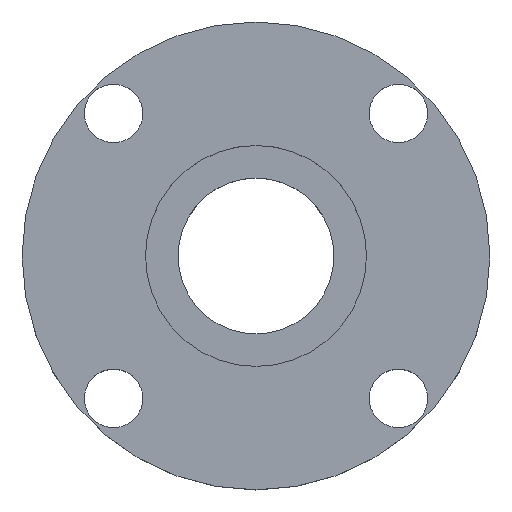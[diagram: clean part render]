
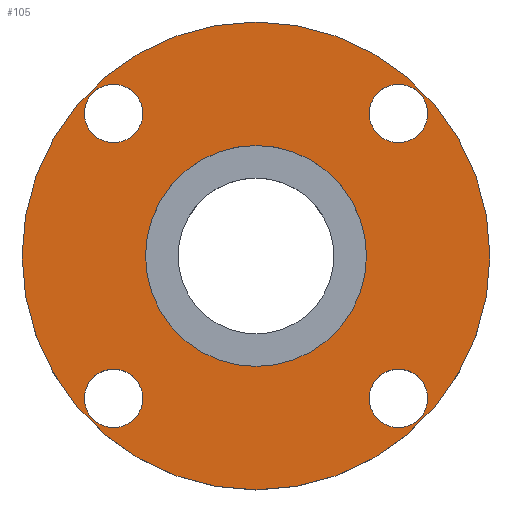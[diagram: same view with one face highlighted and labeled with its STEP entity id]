
A CAD part, top view. The second image highlights one B-rep face of the part: STEP entity #105.
In plain terms, the highlighted planar face has unit normal (0, 0, 1).
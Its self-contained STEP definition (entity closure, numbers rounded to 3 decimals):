
#21 = EDGE_CURVE('',#22,#22,#24,.T.);
#22 = VERTEX_POINT('',#23);
#23 = CARTESIAN_POINT('',(36.,0.,10.));
#24 = SURFACE_CURVE('',#25,(#30,#42),.PCURVE_S1.);
#25 = CIRCLE('',#26,36.);
#26 = AXIS2_PLACEMENT_3D('',#27,#28,#29);
#27 = CARTESIAN_POINT('',(0.,0.,10.));
#28 = DIRECTION('',(0.,0.,1.));
#29 = DIRECTION('',(1.,0.,-0.));
#30 = PCURVE('',#31,#36);
#31 = CYLINDRICAL_SURFACE('',#32,36.);
#32 = AXIS2_PLACEMENT_3D('',#33,#34,#35);
#33 = CARTESIAN_POINT('',(0.,0.,0.));
#34 = DIRECTION('',(0.,0.,1.));
#35 = DIRECTION('',(1.,0.,-0.));
#36 = DEFINITIONAL_REPRESENTATION('',(#37),#41);
#37 = LINE('',#38,#39);
#38 = CARTESIAN_POINT('',(0.,10.));
#39 = VECTOR('',#40,1.);
#40 = DIRECTION('',(1.,0.));
#41 = ( GEOMETRIC_REPRESENTATION_CONTEXT(2) 
PARAMETRIC_REPRESENTATION_CONTEXT() REPRESENTATION_CONTEXT('2D SPACE',''
  ) );
#42 = PCURVE('',#43,#48);
#43 = PLANE('',#44);
#44 = AXIS2_PLACEMENT_3D('',#45,#46,#47);
#45 = CARTESIAN_POINT('',(0.,0.,10.));
#46 = DIRECTION('',(0.,0.,1.));
#47 = DIRECTION('',(1.,0.,-0.));
#48 = DEFINITIONAL_REPRESENTATION('',(#49),#53);
#49 = CIRCLE('',#50,36.);
#50 = AXIS2_PLACEMENT_2D('',#51,#52);
#51 = CARTESIAN_POINT('',(0.,0.));
#52 = DIRECTION('',(1.,0.));
#53 = ( GEOMETRIC_REPRESENTATION_CONTEXT(2) 
PARAMETRIC_REPRESENTATION_CONTEXT() REPRESENTATION_CONTEXT('2D SPACE',''
  ) );
#105 = ADVANCED_FACE('',(#106,#109,#140,#171,#202,#233),#43,.T.);
#106 = FACE_BOUND('',#107,.T.);
#107 = EDGE_LOOP('',(#108));
#108 = ORIENTED_EDGE('',*,*,#21,.T.);
#109 = FACE_BOUND('',#110,.T.);
#110 = EDGE_LOOP('',(#111));
#111 = ORIENTED_EDGE('',*,*,#112,.F.);
#112 = EDGE_CURVE('',#113,#113,#115,.T.);
#113 = VERTEX_POINT('',#114);
#114 = CARTESIAN_POINT('',(-17.42,-21.92,10.));
#115 = SURFACE_CURVE('',#116,(#121,#128),.PCURVE_S1.);
#116 = CIRCLE('',#117,4.5);
#117 = AXIS2_PLACEMENT_3D('',#118,#119,#120);
#118 = CARTESIAN_POINT('',(-21.92,-21.92,10.));
#119 = DIRECTION('',(0.,0.,1.));
#120 = DIRECTION('',(1.,0.,-0.));
#121 = PCURVE('',#43,#122);
#122 = DEFINITIONAL_REPRESENTATION('',(#123),#127);
#123 = CIRCLE('',#124,4.5);
#124 = AXIS2_PLACEMENT_2D('',#125,#126);
#125 = CARTESIAN_POINT('',(-21.92,-21.92));
#126 = DIRECTION('',(1.,0.));
#127 = ( GEOMETRIC_REPRESENTATION_CONTEXT(2) 
PARAMETRIC_REPRESENTATION_CONTEXT() REPRESENTATION_CONTEXT('2D SPACE',''
  ) );
#128 = PCURVE('',#129,#134);
#129 = CYLINDRICAL_SURFACE('',#130,4.5);
#130 = AXIS2_PLACEMENT_3D('',#131,#132,#133);
#131 = CARTESIAN_POINT('',(-21.92,-21.92,-15.));
#132 = DIRECTION('',(0.,0.,1.));
#133 = DIRECTION('',(1.,0.,-0.));
#134 = DEFINITIONAL_REPRESENTATION('',(#135),#139);
#135 = LINE('',#136,#137);
#136 = CARTESIAN_POINT('',(0.,25.));
#137 = VECTOR('',#138,1.);
#138 = DIRECTION('',(1.,0.));
#139 = ( GEOMETRIC_REPRESENTATION_CONTEXT(2) 
PARAMETRIC_REPRESENTATION_CONTEXT() REPRESENTATION_CONTEXT('2D SPACE',''
  ) );
#140 = FACE_BOUND('',#141,.T.);
#141 = EDGE_LOOP('',(#142));
#142 = ORIENTED_EDGE('',*,*,#143,.F.);
#143 = EDGE_CURVE('',#144,#144,#146,.T.);
#144 = VERTEX_POINT('',#145);
#145 = CARTESIAN_POINT('',(26.42,-21.92,10.));
#146 = SURFACE_CURVE('',#147,(#152,#159),.PCURVE_S1.);
#147 = CIRCLE('',#148,4.5);
#148 = AXIS2_PLACEMENT_3D('',#149,#150,#151);
#149 = CARTESIAN_POINT('',(21.92,-21.92,10.));
#150 = DIRECTION('',(0.,0.,1.));
#151 = DIRECTION('',(1.,0.,-0.));
#152 = PCURVE('',#43,#153);
#153 = DEFINITIONAL_REPRESENTATION('',(#154),#158);
#154 = CIRCLE('',#155,4.5);
#155 = AXIS2_PLACEMENT_2D('',#156,#157);
#156 = CARTESIAN_POINT('',(21.92,-21.92));
#157 = DIRECTION('',(1.,0.));
#158 = ( GEOMETRIC_REPRESENTATION_CONTEXT(2) 
PARAMETRIC_REPRESENTATION_CONTEXT() REPRESENTATION_CONTEXT('2D SPACE',''
  ) );
#159 = PCURVE('',#160,#165);
#160 = CYLINDRICAL_SURFACE('',#161,4.5);
#161 = AXIS2_PLACEMENT_3D('',#162,#163,#164);
#162 = CARTESIAN_POINT('',(21.92,-21.92,-15.));
#163 = DIRECTION('',(0.,0.,1.));
#164 = DIRECTION('',(1.,0.,-0.));
#165 = DEFINITIONAL_REPRESENTATION('',(#166),#170);
#166 = LINE('',#167,#168);
#167 = CARTESIAN_POINT('',(0.,25.));
#168 = VECTOR('',#169,1.);
#169 = DIRECTION('',(1.,0.));
#170 = ( GEOMETRIC_REPRESENTATION_CONTEXT(2) 
PARAMETRIC_REPRESENTATION_CONTEXT() REPRESENTATION_CONTEXT('2D SPACE',''
  ) );
#171 = FACE_BOUND('',#172,.T.);
#172 = EDGE_LOOP('',(#173));
#173 = ORIENTED_EDGE('',*,*,#174,.F.);
#174 = EDGE_CURVE('',#175,#175,#177,.T.);
#175 = VERTEX_POINT('',#176);
#176 = CARTESIAN_POINT('',(-17.42,21.92,10.));
#177 = SURFACE_CURVE('',#178,(#183,#190),.PCURVE_S1.);
#178 = CIRCLE('',#179,4.5);
#179 = AXIS2_PLACEMENT_3D('',#180,#181,#182);
#180 = CARTESIAN_POINT('',(-21.92,21.92,10.));
#181 = DIRECTION('',(0.,0.,1.));
#182 = DIRECTION('',(1.,0.,-0.));
#183 = PCURVE('',#43,#184);
#184 = DEFINITIONAL_REPRESENTATION('',(#185),#189);
#185 = CIRCLE('',#186,4.5);
#186 = AXIS2_PLACEMENT_2D('',#187,#188);
#187 = CARTESIAN_POINT('',(-21.92,21.92));
#188 = DIRECTION('',(1.,0.));
#189 = ( GEOMETRIC_REPRESENTATION_CONTEXT(2) 
PARAMETRIC_REPRESENTATION_CONTEXT() REPRESENTATION_CONTEXT('2D SPACE',''
  ) );
#190 = PCURVE('',#191,#196);
#191 = CYLINDRICAL_SURFACE('',#192,4.5);
#192 = AXIS2_PLACEMENT_3D('',#193,#194,#195);
#193 = CARTESIAN_POINT('',(-21.92,21.92,-15.));
#194 = DIRECTION('',(0.,0.,1.));
#195 = DIRECTION('',(1.,0.,-0.));
#196 = DEFINITIONAL_REPRESENTATION('',(#197),#201);
#197 = LINE('',#198,#199);
#198 = CARTESIAN_POINT('',(0.,25.));
#199 = VECTOR('',#200,1.);
#200 = DIRECTION('',(1.,0.));
#201 = ( GEOMETRIC_REPRESENTATION_CONTEXT(2) 
PARAMETRIC_REPRESENTATION_CONTEXT() REPRESENTATION_CONTEXT('2D SPACE',''
  ) );
#202 = FACE_BOUND('',#203,.T.);
#203 = EDGE_LOOP('',(#204));
#204 = ORIENTED_EDGE('',*,*,#205,.F.);
#205 = EDGE_CURVE('',#206,#206,#208,.T.);
#206 = VERTEX_POINT('',#207);
#207 = CARTESIAN_POINT('',(17.,0.,10.));
#208 = SURFACE_CURVE('',#209,(#214,#221),.PCURVE_S1.);
#209 = CIRCLE('',#210,17.);
#210 = AXIS2_PLACEMENT_3D('',#211,#212,#213);
#211 = CARTESIAN_POINT('',(0.,0.,10.));
#212 = DIRECTION('',(0.,0.,1.));
#213 = DIRECTION('',(1.,0.,-0.));
#214 = PCURVE('',#43,#215);
#215 = DEFINITIONAL_REPRESENTATION('',(#216),#220);
#216 = CIRCLE('',#217,17.);
#217 = AXIS2_PLACEMENT_2D('',#218,#219);
#218 = CARTESIAN_POINT('',(0.,0.));
#219 = DIRECTION('',(1.,0.));
#220 = ( GEOMETRIC_REPRESENTATION_CONTEXT(2) 
PARAMETRIC_REPRESENTATION_CONTEXT() REPRESENTATION_CONTEXT('2D SPACE',''
  ) );
#221 = PCURVE('',#222,#227);
#222 = CYLINDRICAL_SURFACE('',#223,17.);
#223 = AXIS2_PLACEMENT_3D('',#224,#225,#226);
#224 = CARTESIAN_POINT('',(0.,0.,4.));
#225 = DIRECTION('',(0.,0.,1.));
#226 = DIRECTION('',(1.,0.,-0.));
#227 = DEFINITIONAL_REPRESENTATION('',(#228),#232);
#228 = LINE('',#229,#230);
#229 = CARTESIAN_POINT('',(0.,6.));
#230 = VECTOR('',#231,1.);
#231 = DIRECTION('',(1.,0.));
#232 = ( GEOMETRIC_REPRESENTATION_CONTEXT(2) 
PARAMETRIC_REPRESENTATION_CONTEXT() REPRESENTATION_CONTEXT('2D SPACE',''
  ) );
#233 = FACE_BOUND('',#234,.T.);
#234 = EDGE_LOOP('',(#235));
#235 = ORIENTED_EDGE('',*,*,#236,.F.);
#236 = EDGE_CURVE('',#237,#237,#239,.T.);
#237 = VERTEX_POINT('',#238);
#238 = CARTESIAN_POINT('',(26.42,21.92,10.));
#239 = SURFACE_CURVE('',#240,(#245,#252),.PCURVE_S1.);
#240 = CIRCLE('',#241,4.5);
#241 = AXIS2_PLACEMENT_3D('',#242,#243,#244);
#242 = CARTESIAN_POINT('',(21.92,21.92,10.));
#243 = DIRECTION('',(0.,0.,1.));
#244 = DIRECTION('',(1.,0.,-0.));
#245 = PCURVE('',#43,#246);
#246 = DEFINITIONAL_REPRESENTATION('',(#247),#251);
#247 = CIRCLE('',#248,4.5);
#248 = AXIS2_PLACEMENT_2D('',#249,#250);
#249 = CARTESIAN_POINT('',(21.92,21.92));
#250 = DIRECTION('',(1.,0.));
#251 = ( GEOMETRIC_REPRESENTATION_CONTEXT(2) 
PARAMETRIC_REPRESENTATION_CONTEXT() REPRESENTATION_CONTEXT('2D SPACE',''
  ) );
#252 = PCURVE('',#253,#258);
#253 = CYLINDRICAL_SURFACE('',#254,4.5);
#254 = AXIS2_PLACEMENT_3D('',#255,#256,#257);
#255 = CARTESIAN_POINT('',(21.92,21.92,-15.));
#256 = DIRECTION('',(0.,0.,1.));
#257 = DIRECTION('',(1.,0.,-0.));
#258 = DEFINITIONAL_REPRESENTATION('',(#259),#263);
#259 = LINE('',#260,#261);
#260 = CARTESIAN_POINT('',(0.,25.));
#261 = VECTOR('',#262,1.);
#262 = DIRECTION('',(1.,0.));
#263 = ( GEOMETRIC_REPRESENTATION_CONTEXT(2) 
PARAMETRIC_REPRESENTATION_CONTEXT() REPRESENTATION_CONTEXT('2D SPACE',''
  ) );
